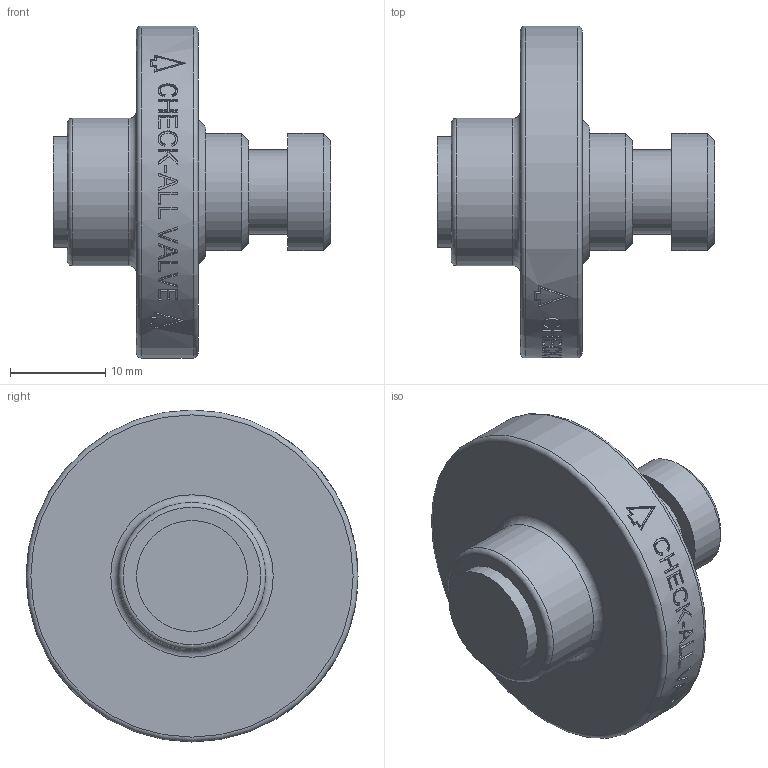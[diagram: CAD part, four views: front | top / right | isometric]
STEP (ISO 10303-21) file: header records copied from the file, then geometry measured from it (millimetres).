
FILE_DESCRIPTION( ( 'Unknown' ), '1' );
FILE_NAME( 'Y:/ENGR/3D Solid Edge Models/F1/F1 STEP/F1D.stp', 'Unknown', ( 'Unknown' ), ( 'Unknown' ), 'PSStep 14.0', 'Unknown', ' ' );
FILE_SCHEMA( ( 'AUTOMOTIVE_DESIGN { 1 0 10303 214 1 1 1 1 }' ) );
Length unit declared in the file: millimetre
Products named in the file (1): 1
Bounding box: 29.16 x 34.92 x 34.92 mm (x, y, z)
Volume: 9157.3 mm3; surface area: 3565.2 mm2
Topology: 1 solids, 1 shells, 208 faces, 522 edges, 346 vertices
Faces by surface type: plane 126, bspline 45, cylinder 30, torus 4, cone 3
Full cylindrical faces by diameter (mm): 8.839 x1, 11.684 x1, 12.319 x2, 15.494 x1, 34.925 x1
Entity records: 9121 total; most frequent: CARTESIAN_POINT 3585, ORIENTED_EDGE 1018, EDGE_CURVE 509, B_SPLINE_CURVE_WITH_KNOTS 489, DIRECTION 368, VERTEX_POINT 346, EDGE_LOOP 251, FACE_OUTER_BOUND 218
